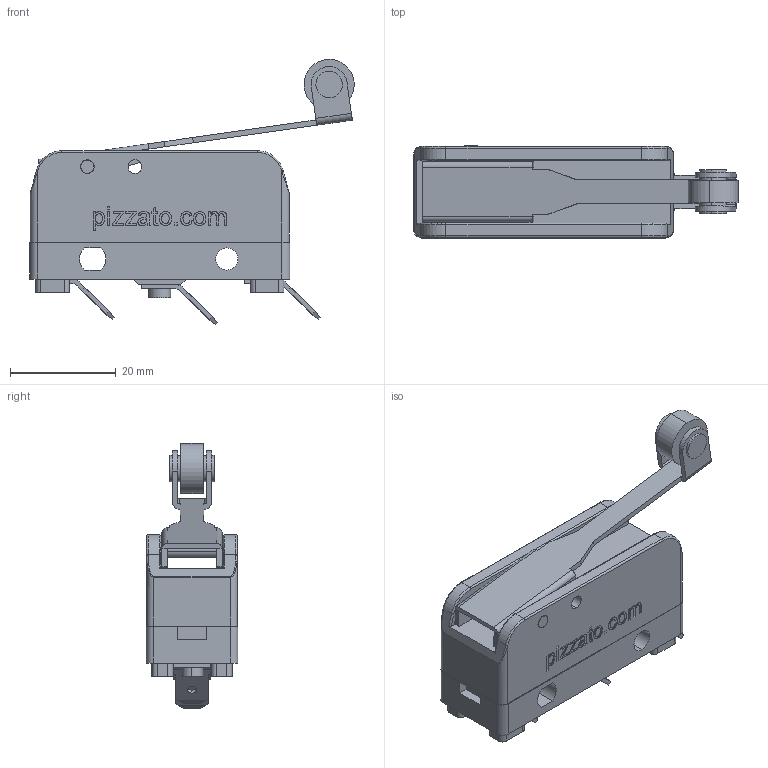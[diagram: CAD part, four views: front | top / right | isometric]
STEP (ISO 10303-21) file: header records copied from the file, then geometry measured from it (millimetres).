
FILE_DESCRIPTION (( 'STEP AP214' ), '1' );
FILE_NAME ('ZF_STEP_MF_40_.step', '2019-08-27T09:23:11', ( 'Pizzato Elettrica' ), ( 'Microsoft' ), 'SwSTEP 2.0', 'SolidWorks 2014', '' );
FILE_SCHEMA (( 'AUTOMOTIVE_DESIGN' ));
Length unit declared in the file: millimetre
Products named in the file (6): MF Base 180+181; Pizzato_Faston_121; Pizzato_base 180+181_MF; ZF_STEP_MF_40_; Pizzato_Leva_MS_40_MK40; Pizzato_Perno Leva
Assembly tree (7 placements, depth 3):
  ZF_STEP_MF_40_
    MF Base 180+181
      Pizzato_base 180+181_MF
      Pizzato_Faston_121  x3
    Pizzato_Perno Leva
    Pizzato_Leva_MS_40_MK40
Bounding box: 61.41 x 17.4 x 50.21 mm (x, y, z)
Volume: 17670.7 mm3; surface area: 10728.2 mm2
Topology: 7 solids, 7 shells, 427 faces, 1115 edges, 734 vertices
Faces by surface type: plane 226, cylinder 120, bspline 73, torus 8
Entity records: 15452 total; most frequent: CARTESIAN_POINT 6088, ORIENTED_EDGE 1990, DIRECTION 1703, EDGE_CURVE 995, VERTEX_POINT 654, LINE 629, VECTOR 629, AXIS2_PLACEMENT_3D 537
